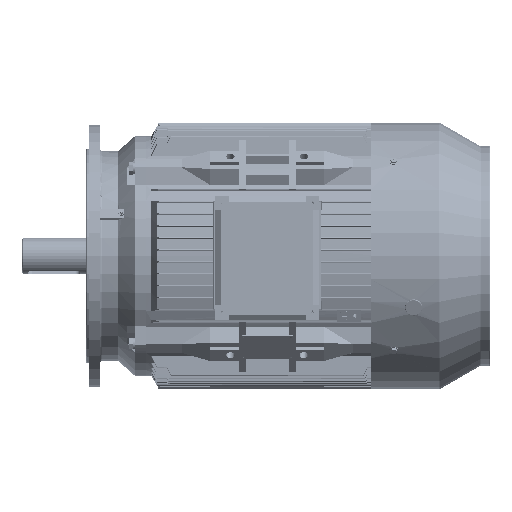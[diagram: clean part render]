
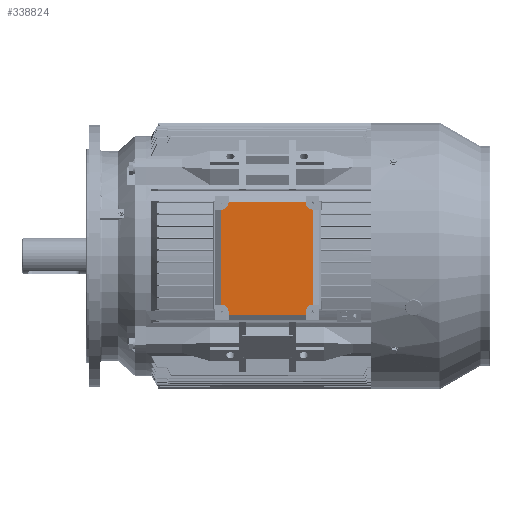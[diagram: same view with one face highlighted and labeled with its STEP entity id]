
A CAD part, top view. The second image highlights one B-rep face of the part: STEP entity #338824.
In plain terms, the highlighted planar face has unit normal (0, 0, 1).
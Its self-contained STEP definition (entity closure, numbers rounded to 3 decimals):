
#1277 = CARTESIAN_POINT ( 'NONE',  ( -40.908, -98.013, 386.917 ) ) ;
#3097 = DIRECTION ( 'NONE',  ( 0., 0., 1. ) ) ;
#3586 = DIRECTION ( 'NONE',  ( 0., -1., 0. ) ) ;
#5246 = EDGE_LOOP ( 'NONE', ( #115497, #354511, #282002, #264451, #90775, #222934, #319620, #196114, #275371, #257467, #192315, #182375, #65847, #66813, #225311, #11810 ) ) ;
#7436 = DIRECTION ( 'NONE',  ( 0., 1., 0. ) ) ;
#11810 = ORIENTED_EDGE ( 'NONE', *, *, #157524, .F. ) ;
#23924 = LINE ( 'NONE', #114879, #252521 ) ;
#31289 = CARTESIAN_POINT ( 'NONE',  ( 153.092, 100.987, 386.917 ) ) ;
#31999 = VECTOR ( 'NONE', #307618, 1000. ) ;
#33454 = EDGE_CURVE ( 'NONE', #205590, #209181, #311942, .T. ) ;
#34002 = DIRECTION ( 'NONE',  ( 0., 0., 1. ) ) ;
#37430 = CARTESIAN_POINT ( 'NONE',  ( 152.092, 115.987, 386.917 ) ) ;
#37712 = CIRCLE ( 'NONE', #173983, 15. ) ;
#41471 = EDGE_CURVE ( 'NONE', #92384, #367458, #50511, .T. ) ;
#50131 = AXIS2_PLACEMENT_3D ( 'NONE', #288451, #34002, #147313 ) ;
#50511 = LINE ( 'NONE', #100812, #364353 ) ;
#52014 = DIRECTION ( 'NONE',  ( 1., 0., 0. ) ) ;
#52138 = VERTEX_POINT ( 'NONE', #140024 ) ;
#55954 = CARTESIAN_POINT ( 'NONE',  ( -40.908, 100.987, 386.917 ) ) ;
#59320 = CARTESIAN_POINT ( 'NONE',  ( 137.092, 128.987, 386.917 ) ) ;
#60802 = LINE ( 'NONE', #177731, #348505 ) ;
#61863 = PLANE ( 'NONE',  #50131 ) ;
#63347 = CARTESIAN_POINT ( 'NONE',  ( -24.908, 116.987, 386.917 ) ) ;
#63979 = CARTESIAN_POINT ( 'NONE',  ( 137.092, 115.987, 386.917 ) ) ;
#65847 = ORIENTED_EDGE ( 'NONE', *, *, #71580, .F. ) ;
#66813 = ORIENTED_EDGE ( 'NONE', *, *, #72007, .T. ) ;
#68943 = DIRECTION ( 'NONE',  ( 0., 0., 1. ) ) ;
#71580 = EDGE_CURVE ( 'NONE', #243682, #336478, #209787, .T. ) ;
#72007 = EDGE_CURVE ( 'NONE', #243682, #126209, #220346, .T. ) ;
#74265 = EDGE_CURVE ( 'NONE', #333004, #126209, #363928, .T. ) ;
#81712 = LINE ( 'NONE', #367632, #86117 ) ;
#81963 = VERTEX_POINT ( 'NONE', #289127 ) ;
#84244 = DIRECTION ( 'NONE',  ( 0., 1., 0. ) ) ;
#86117 = VECTOR ( 'NONE', #52014, 1000. ) ;
#90775 = ORIENTED_EDGE ( 'NONE', *, *, #33454, .F. ) ;
#92384 = VERTEX_POINT ( 'NONE', #281375 ) ;
#93417 = AXIS2_PLACEMENT_3D ( 'NONE', #223558, #342325, #84244 ) ;
#96840 = DIRECTION ( 'NONE',  ( -1., 0., 0. ) ) ;
#100812 = CARTESIAN_POINT ( 'NONE',  ( -52.908, -98.013, 386.917 ) ) ;
#108608 = DIRECTION ( 'NONE',  ( 0., 0., 1. ) ) ;
#110435 = DIRECTION ( 'NONE',  ( 0., 1., 0. ) ) ;
#113705 = EDGE_CURVE ( 'NONE', #209181, #292665, #279986, .T. ) ;
#114879 = CARTESIAN_POINT ( 'NONE',  ( -40.908, -98.013, 386.917 ) ) ;
#115497 = ORIENTED_EDGE ( 'NONE', *, *, #236212, .F. ) ;
#118948 = CARTESIAN_POINT ( 'NONE',  ( -24.908, -131.013, 386.917 ) ) ;
#126209 = VERTEX_POINT ( 'NONE', #331866 ) ;
#129588 = LINE ( 'NONE', #268894, #270909 ) ;
#135623 = VECTOR ( 'NONE', #96840, 1000. ) ;
#137239 = DIRECTION ( 'NONE',  ( 0., -1., 0. ) ) ;
#140024 = CARTESIAN_POINT ( 'NONE',  ( -24.908, 115.987, 386.917 ) ) ;
#144299 = CARTESIAN_POINT ( 'NONE',  ( -39.908, 115.987, 386.917 ) ) ;
#145007 = DIRECTION ( 'NONE',  ( 1., 0., 0. ) ) ;
#145189 = VECTOR ( 'NONE', #163370, 1000. ) ;
#147313 = DIRECTION ( 'NONE',  ( 0., -1., 0. ) ) ;
#148591 = VECTOR ( 'NONE', #366455, 1000. ) ;
#149879 = DIRECTION ( 'NONE',  ( -1., 0., 0. ) ) ;
#151530 = EDGE_CURVE ( 'NONE', #336478, #92384, #366223, .T. ) ;
#157524 = EDGE_CURVE ( 'NONE', #81963, #333004, #201583, .T. ) ;
#163370 = DIRECTION ( 'NONE',  ( 0., -1., 0. ) ) ;
#168321 = CARTESIAN_POINT ( 'NONE',  ( 137.092, -119.013, 386.917 ) ) ;
#168523 = CARTESIAN_POINT ( 'NONE',  ( 152.092, 100.987, 386.917 ) ) ;
#169591 = CARTESIAN_POINT ( 'NONE',  ( 153.092, 100.987, 386.917 ) ) ;
#173051 = EDGE_CURVE ( 'NONE', #309070, #52138, #37712, .T. ) ;
#173983 = AXIS2_PLACEMENT_3D ( 'NONE', #144299, #3097, #208610 ) ;
#177731 = CARTESIAN_POINT ( 'NONE',  ( -24.908, 116.987, 386.917 ) ) ;
#180163 = LINE ( 'NONE', #286131, #340921 ) ;
#182375 = ORIENTED_EDGE ( 'NONE', *, *, #151530, .F. ) ;
#184506 = EDGE_CURVE ( 'NONE', #292665, #300076, #81712, .T. ) ;
#185888 = LINE ( 'NONE', #327004, #135623 ) ;
#186185 = DIRECTION ( 'NONE',  ( -1., 0., 0. ) ) ;
#187552 = VERTEX_POINT ( 'NONE', #55954 ) ;
#189259 = VERTEX_POINT ( 'NONE', #260154 ) ;
#191811 = EDGE_CURVE ( 'NONE', #189259, #300076, #310727, .T. ) ;
#192315 = ORIENTED_EDGE ( 'NONE', *, *, #41471, .F. ) ;
#196114 = ORIENTED_EDGE ( 'NONE', *, *, #173051, .F. ) ;
#201583 = CIRCLE ( 'NONE', #320051, 15. ) ;
#203012 = EDGE_CURVE ( 'NONE', #187552, #367458, #23924, .T. ) ;
#205590 = VERTEX_POINT ( 'NONE', #269350 ) ;
#208610 = DIRECTION ( 'NONE',  ( 0., 1., 0. ) ) ;
#209181 = VERTEX_POINT ( 'NONE', #63979 ) ;
#209787 = LINE ( 'NONE', #118948, #215466 ) ;
#210412 = CARTESIAN_POINT ( 'NONE',  ( -24.908, -113.013, 386.917 ) ) ;
#211454 = CARTESIAN_POINT ( 'NONE',  ( 137.092, -113.013, 386.917 ) ) ;
#215466 = VECTOR ( 'NONE', #7436, 1000. ) ;
#219052 = EDGE_CURVE ( 'NONE', #187552, #309070, #180163, .T. ) ;
#220346 = LINE ( 'NONE', #168321, #31999 ) ;
#222934 = ORIENTED_EDGE ( 'NONE', *, *, #223263, .T. ) ;
#223263 = EDGE_CURVE ( 'NONE', #205590, #358058, #60802, .T. ) ;
#223558 = CARTESIAN_POINT ( 'NONE',  ( -39.908, -113.013, 386.917 ) ) ;
#225311 = ORIENTED_EDGE ( 'NONE', *, *, #74265, .F. ) ;
#236212 = EDGE_CURVE ( 'NONE', #189259, #81963, #185888, .T. ) ;
#243682 = VERTEX_POINT ( 'NONE', #286422 ) ;
#248320 = DIRECTION ( 'NONE',  ( 0., 1., 0. ) ) ;
#250245 = AXIS2_PLACEMENT_3D ( 'NONE', #37430, #68943, #271351 ) ;
#252521 = VECTOR ( 'NONE', #137239, 1000. ) ;
#257467 = ORIENTED_EDGE ( 'NONE', *, *, #203012, .T. ) ;
#260154 = CARTESIAN_POINT ( 'NONE',  ( 153.092, -98.013, 386.917 ) ) ;
#264451 = ORIENTED_EDGE ( 'NONE', *, *, #113705, .F. ) ;
#268894 = CARTESIAN_POINT ( 'NONE',  ( -24.908, 128.987, 386.917 ) ) ;
#269350 = CARTESIAN_POINT ( 'NONE',  ( 137.092, 116.987, 386.917 ) ) ;
#270909 = VECTOR ( 'NONE', #248320, 1000. ) ;
#271351 = DIRECTION ( 'NONE',  ( 0., 1., 0. ) ) ;
#275371 = ORIENTED_EDGE ( 'NONE', *, *, #219052, .F. ) ;
#276679 = CARTESIAN_POINT ( 'NONE',  ( 137.092, -131.013, 386.917 ) ) ;
#279986 = CIRCLE ( 'NONE', #250245, 15. ) ;
#281375 = CARTESIAN_POINT ( 'NONE',  ( -39.908, -98.013, 386.917 ) ) ;
#282002 = ORIENTED_EDGE ( 'NONE', *, *, #184506, .F. ) ;
#286131 = CARTESIAN_POINT ( 'NONE',  ( -52.908, 100.987, 386.917 ) ) ;
#286422 = CARTESIAN_POINT ( 'NONE',  ( -24.908, -119.013, 386.917 ) ) ;
#288451 = CARTESIAN_POINT ( 'NONE',  ( -52.908, 128.987, 386.917 ) ) ;
#289127 = CARTESIAN_POINT ( 'NONE',  ( 152.092, -98.013, 386.917 ) ) ;
#292665 = VERTEX_POINT ( 'NONE', #168523 ) ;
#300076 = VERTEX_POINT ( 'NONE', #31289 ) ;
#307618 = DIRECTION ( 'NONE',  ( 1., 0., 0. ) ) ;
#309070 = VERTEX_POINT ( 'NONE', #320811 ) ;
#310727 = LINE ( 'NONE', #169591, #148591 ) ;
#311942 = LINE ( 'NONE', #59320, #321831 ) ;
#316271 = FACE_OUTER_BOUND ( 'NONE', #5246, .T. ) ;
#319620 = ORIENTED_EDGE ( 'NONE', *, *, #349977, .F. ) ;
#320051 = AXIS2_PLACEMENT_3D ( 'NONE', #333281, #108608, #110435 ) ;
#320811 = CARTESIAN_POINT ( 'NONE',  ( -39.908, 100.987, 386.917 ) ) ;
#321831 = VECTOR ( 'NONE', #3586, 1000. ) ;
#327004 = CARTESIAN_POINT ( 'NONE',  ( 165.092, -98.013, 386.917 ) ) ;
#331866 = CARTESIAN_POINT ( 'NONE',  ( 137.092, -119.013, 386.917 ) ) ;
#333004 = VERTEX_POINT ( 'NONE', #211454 ) ;
#333281 = CARTESIAN_POINT ( 'NONE',  ( 152.092, -113.013, 386.917 ) ) ;
#336478 = VERTEX_POINT ( 'NONE', #210412 ) ;
#338824 = ADVANCED_FACE ( 'NONE', ( #316271 ), #61863, .T. ) ;
#340921 = VECTOR ( 'NONE', #145007, 1000. ) ;
#342325 = DIRECTION ( 'NONE',  ( 0., 0., 1. ) ) ;
#348505 = VECTOR ( 'NONE', #149879, 1000. ) ;
#349977 = EDGE_CURVE ( 'NONE', #52138, #358058, #129588, .T. ) ;
#354511 = ORIENTED_EDGE ( 'NONE', *, *, #191811, .T. ) ;
#358058 = VERTEX_POINT ( 'NONE', #63347 ) ;
#363928 = LINE ( 'NONE', #276679, #145189 ) ;
#364353 = VECTOR ( 'NONE', #186185, 1000. ) ;
#366223 = CIRCLE ( 'NONE', #93417, 15. ) ;
#366455 = DIRECTION ( 'NONE',  ( 0., 1., 0. ) ) ;
#367458 = VERTEX_POINT ( 'NONE', #1277 ) ;
#367632 = CARTESIAN_POINT ( 'NONE',  ( 165.092, 100.987, 386.917 ) ) ;
